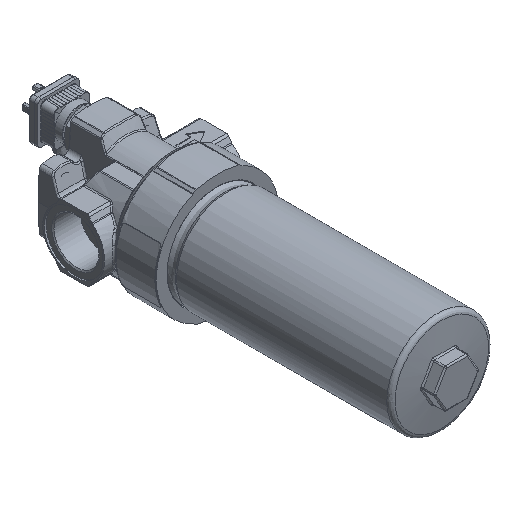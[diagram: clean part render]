
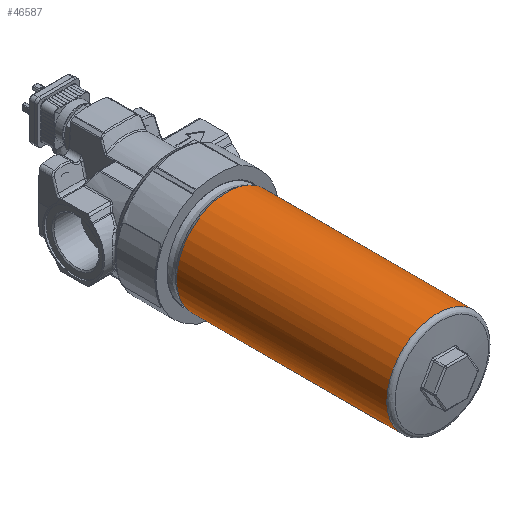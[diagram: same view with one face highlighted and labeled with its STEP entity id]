
A CAD part, isometric view. The second image highlights one B-rep face of the part: STEP entity #46587.
In plain terms, the highlighted free-form (B-spline) face has degree [2, 1] with [7, 2] control points.
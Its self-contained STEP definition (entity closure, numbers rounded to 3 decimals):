
#46477=CARTESIAN_POINT('V1349',(-65.874,
   -157.502,-19.388));
#46478=VERTEX_POINT('V1349',#46477);
#46492=CARTESIAN_POINT('E2045',(-65.874,
   -157.502,-19.388));
#46493=CARTESIAN_POINT('E2045',(-65.874,
   -157.502,-17.657));
#46494=CARTESIAN_POINT('E2045',(-65.619,
   -157.502,-14.195));
#46495=CARTESIAN_POINT('E2045',(-64.478,
   -157.502,-9.116));
#46496=CARTESIAN_POINT('E2045',(-62.604,
   -157.502,-4.258));
#46497=CARTESIAN_POINT('E2045',(-60.037,
   -157.502,0.272));
#46498=CARTESIAN_POINT('E2045',(-56.833,
   -157.502,4.376));
#46499=CARTESIAN_POINT('E2045',(-53.061,
   -157.502,7.965));
#46500=CARTESIAN_POINT('E2045',(-48.803,
   -157.502,10.962));
#46501=CARTESIAN_POINT('E2045',(-43.735,
   -157.502,13.511));
#46502=CARTESIAN_POINT('E2045',(-37.856,
   -157.502,15.323));
#46503=CARTESIAN_POINT('E2045',(-31.279,
   -157.502,16.062));
#46504=CARTESIAN_POINT('E2045',(-24.678,
   -157.502,15.566));
#46505=CARTESIAN_POINT('E2045',(-18.02,
   -157.502,13.781));
#46506=CARTESIAN_POINT('E2045',(-11.589,
   -157.502,10.59));
#46507=CARTESIAN_POINT('E2045',(-5.88,
   -157.502,6.059));
#46508=CARTESIAN_POINT('E2045',(-1.313,
   -157.502,0.599));
#46509=CARTESIAN_POINT('E2045',(2.023,
   -157.502,-5.504));
#46510=CARTESIAN_POINT('E2045',(4.105,
   -157.502,-12.14));
#46511=CARTESIAN_POINT('E2045',(4.844,
   -157.502,-18.989));
#46512=CARTESIAN_POINT('E2045',(4.258,
   -157.502,-25.786));
#46513=CARTESIAN_POINT('E2045',(2.412,
   -157.502,-32.286));
#46514=CARTESIAN_POINT('E2045',(-0.634,
   -157.502,-38.318));
#46515=CARTESIAN_POINT('E2045',(-4.724,
   -157.502,-43.604));
#46516=CARTESIAN_POINT('E2045',(-9.673,
   -157.502,-47.985));
#46517=CARTESIAN_POINT('E2045',(-15.279,
   -157.502,-51.345));
#46518=CARTESIAN_POINT('E2045',(-21.406,
   -157.502,-53.619));
#46519=CARTESIAN_POINT('E2045',(-28.734,
   -157.502,-54.883));
#46520=CARTESIAN_POINT('E2045',(-37.098,
   -157.502,-54.449));
#46521=CARTESIAN_POINT('E2045',(-45.051,
   -157.502,-51.872));
#46522=CARTESIAN_POINT('E2045',(-51.42,
   -157.502,-48.095));
#46523=CARTESIAN_POINT('E2045',(-56.366,
   -157.502,-43.769));
#46524=CARTESIAN_POINT('E2045',(-60.473,
   -157.502,-38.536));
#46525=CARTESIAN_POINT('E2045',(-63.554,
   -157.502,-32.55));
#46526=CARTESIAN_POINT('E2045',(-65.448,
   -157.502,-26.09));
#46527=CARTESIAN_POINT('E2045',(-65.874,
   -157.502,-21.621));
#46528=CARTESIAN_POINT('E2045',(-65.874,
   -157.502,-19.388));
#46529=B_SPLINE_CURVE_WITH_KNOTS('E2045',3,(#46492,#46493,#46494,
   #46495,#46496,#46497,#46498,#46499,#46500,#46501,#46502,#46503,
   #46504,#46505,#46506,#46507,#46508,#46509,#46510,#46511,#46512,
   #46513,#46514,#46515,#46516,#46517,#46518,#46519,#46520,#46521,
   #46522,#46523,#46524,#46525,#46526,#46527,#46528),.UNSPECIFIED.,
   .T.,.U.,(4,1,1,1,1,1,1,1,1,1,1,1,1,1,1,1,1,1,1,1,1,1,1,1,1,1,1,1,
   1,1,1,1,1,1,4),(2.0,3.067,4.134,
   5.201,6.269,7.336,
   8.403,9.47,10.537,
   11.891,13.246,14.6,
   15.954,17.477,19.,
   20.422,21.845,23.267,
   24.689,26.071,27.453,
   28.836,30.218,31.555,
   32.892,34.23,35.567,
   37.457,39.347,40.675,
   42.003,43.381,44.758,
   46.135,47.512),.UNSPECIFIED.);
#46530=EDGE_CURVE('E2045',#46478,#46478,#46529,.T.);
#46537=CARTESIAN_POINT('F716',(-65.874,
   -11.371,-19.388));
#46538=CARTESIAN_POINT('F716',(-65.874,
   -11.371,-80.443));
#46539=CARTESIAN_POINT('F716',(-12.999,
   -11.371,-49.915));
#46540=CARTESIAN_POINT('F716',(39.876,
   -11.371,-19.388));
#46541=CARTESIAN_POINT('F716',(-12.999,
   -11.371,11.14));
#46542=CARTESIAN_POINT('F716',(-65.874,
   -11.371,41.667));
#46543=CARTESIAN_POINT('F716',(-65.874,
   -11.371,-19.388));
#46544=CARTESIAN_POINT('F716',(-65.874,
   -160.251,-19.388));
#46545=CARTESIAN_POINT('F716',(-65.874,
   -160.251,-80.443));
#46546=CARTESIAN_POINT('F716',(-12.999,
   -160.251,-49.915));
#46547=CARTESIAN_POINT('F716',(39.876,
   -160.251,-19.388));
#46548=CARTESIAN_POINT('F716',(-12.999,
   -160.251,11.14));
#46549=CARTESIAN_POINT('F716',(-65.874,
   -160.251,41.667));
#46550=CARTESIAN_POINT('F716',(-65.874,
   -160.251,-19.388));
#46558=(BOUNDED_SURFACE()B_SPLINE_SURFACE(2,1,((#46537,#46544),(
   #46538,#46545),(#46539,#46546),(#46540,#46547),(#46541,
   #46548),(#46542,#46549),(#46543,#46550)),.CYLINDRICAL_SURF.,
   .T.,.F.,.U.)B_SPLINE_SURFACE_WITH_KNOTS((3,2,2,3),(2,2),(0.0,
   0.82,1.64,2.461),(0.0,1.0),
   .UNSPECIFIED.)GEOMETRIC_REPRESENTATION_ITEM()
   RATIONAL_B_SPLINE_SURFACE(((1.0,1.0),(0.5,
   0.5),(1.0,1.0),(0.5,
   0.5),(1.0,1.0),(0.5,
   0.5),(1.0,1.0)))REPRESENTATION_ITEM('F716')
   SURFACE());
#46559=ORIENTED_EDGE('E2045',*,*,#46530,.T.);
#46560=CARTESIAN_POINT('V1350',(-65.874,
   -11.371,-19.388));
#46561=VERTEX_POINT('V1350',#46560);
#46562=CARTESIAN_POINT('E2049',(-65.874,
   -157.502,-19.388));
#46563=CARTESIAN_POINT('E2049',(-65.874,
   -11.371,-19.388));
#46564=B_SPLINE_CURVE_WITH_KNOTS('E2049',1,(#46562,#46563),
   .POLYLINE_FORM.,.F.,.U.,(2,2),(0.018,1.0),
   .UNSPECIFIED.);
#46565=EDGE_CURVE('E2049',#46478,#46561,#46564,.T.);
#46566=ORIENTED_EDGE('E2049',*,*,#46565,.T.);
#46567=CARTESIAN_POINT('E2048',(-65.874,
   -11.371,-19.388));
#46568=CARTESIAN_POINT('E2048',(-65.874,
   -11.371,-80.443));
#46569=CARTESIAN_POINT('E2048',(-12.999,
   -11.371,-49.915));
#46570=CARTESIAN_POINT('E2048',(39.876,
   -11.371,-19.388));
#46571=CARTESIAN_POINT('E2048',(-12.999,
   -11.371,11.14));
#46572=CARTESIAN_POINT('E2048',(-65.874,
   -11.371,41.667));
#46573=CARTESIAN_POINT('E2048',(-65.874,
   -11.371,-19.388));
#46581=(BOUNDED_CURVE()B_SPLINE_CURVE(2,(#46567,#46568,#46569,
   #46570,#46571,#46572,#46573),.CIRCULAR_ARC.,.T.,.U.)
   B_SPLINE_CURVE_WITH_KNOTS((3,2,2,3),(0.0,0.82,
   1.64,2.461),.UNSPECIFIED.)CURVE()
   GEOMETRIC_REPRESENTATION_ITEM()RATIONAL_B_SPLINE_CURVE((1.0,
   0.5,1.0,0.5,1.0,0.5,1.0)
   )REPRESENTATION_ITEM('E2048'));
#46582=EDGE_CURVE('E2048',#46561,#46561,#46581,.T.);
#46583=ORIENTED_EDGE('E2048',*,*,#46582,.T.);
#46584=ORIENTED_EDGE('E2049',*,*,#46565,.F.);
#46585=EDGE_LOOP('F716',(#46559,#46566,#46583,#46584));
#46586=FACE_OUTER_BOUND('F716',#46585,.T.);
#46587=ADVANCED_FACE('F716',(#46586),#46558,.T.);
